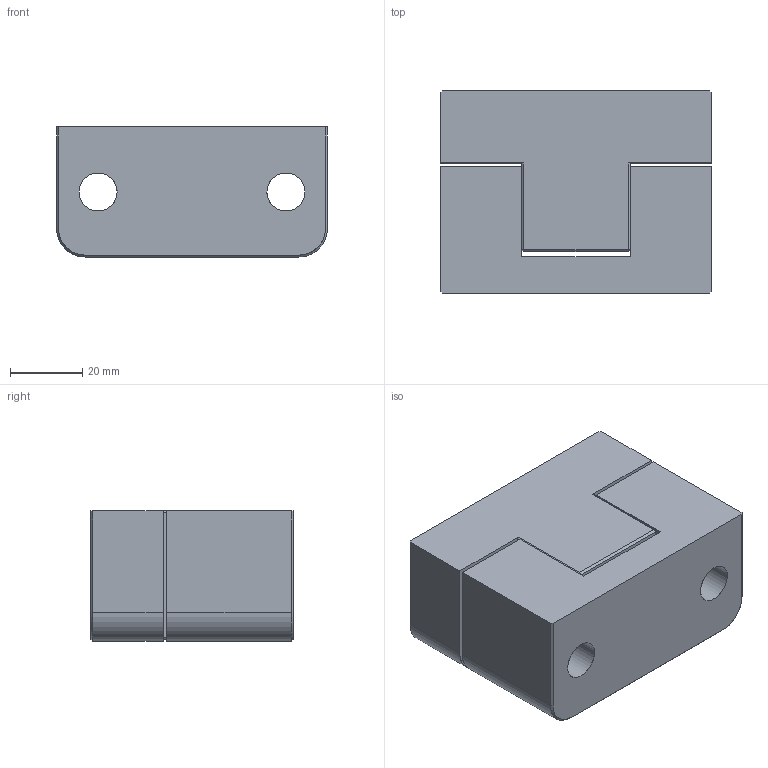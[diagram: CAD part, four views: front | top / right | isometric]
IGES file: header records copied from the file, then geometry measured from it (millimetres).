
Start section: START RECORD GO HERE.
Global section: file name: CL505075.igs; native system: DASSAULT SYSTEMES CATIA V5 R20 - www.3ds.com; preprocessor: CATIA Version 5 Release 20 ; author: Utente; organization: NB04-ASUS; date: 20200419.212012; units: millimetre
Bounding box: 75 x 56 x 36 mm (x, y, z)
Surface area: 31455.9 mm2 (no closed solid volume)
Topology: 0 solids, 0 shells, 236 faces, 900 edges, 896 vertices
Faces by surface type: revolution 128, plane 108
